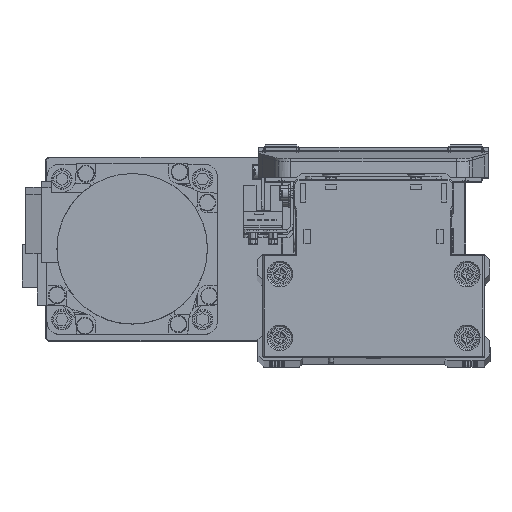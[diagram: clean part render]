
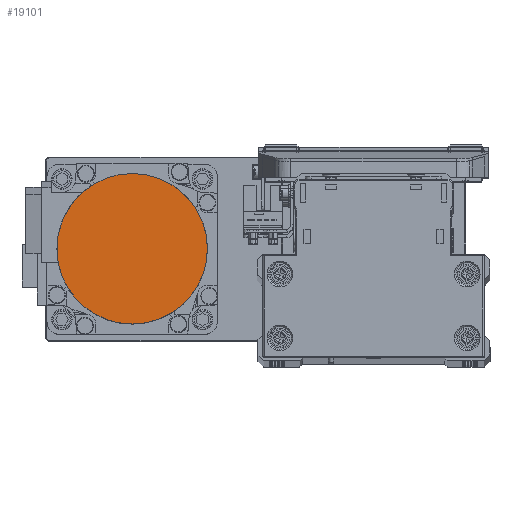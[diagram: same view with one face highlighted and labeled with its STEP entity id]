
A CAD part, top view. The second image highlights one B-rep face of the part: STEP entity #19101.
In plain terms, the highlighted planar face has unit normal (0, 0, 1) as drawn and (0, 0, -1) by its records, which use the part's own axes.
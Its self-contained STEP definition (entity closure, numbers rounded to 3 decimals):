
#1622 = FACE_OUTER_BOUND ( 'NONE', #32516, .T. ) ;
#2966 = EDGE_CURVE ( 'NONE', #26208, #9886, #23363, .T. ) ;
#4425 = EDGE_CURVE ( 'NONE', #9886, #26208, #15385, .T. ) ;
#5144 = AXIS2_PLACEMENT_3D ( 'NONE', #14668, #27534, #40423 ) ;
#5985 = CARTESIAN_POINT ( 'NONE',  ( 0., 0., -109.7 ) ) ;
#9886 = VERTEX_POINT ( 'NONE', #20001 ) ;
#11332 = DIRECTION ( 'NONE',  ( 1., 0., 0. ) ) ;
#14516 = PLANE ( 'NONE',  #17524 ) ;
#14668 = CARTESIAN_POINT ( 'NONE',  ( 0., 0., -109.7 ) ) ;
#15385 = CIRCLE ( 'NONE', #38985, 26.5 ) ;
#17524 = AXIS2_PLACEMENT_3D ( 'NONE', #27388, #40277, #11332 ) ;
#18872 = DIRECTION ( 'NONE',  ( 0., 0., 1. ) ) ;
#19101 = ADVANCED_FACE ( 'NONE', ( #1622 ), #14516, .F. ) ;
#20001 = CARTESIAN_POINT ( 'NONE',  ( 26.5, 0., -109.7 ) ) ;
#23363 = CIRCLE ( 'NONE', #5144, 26.5 ) ;
#26170 = ORIENTED_EDGE ( 'NONE', *, *, #2966, .F. ) ;
#26208 = VERTEX_POINT ( 'NONE', #35395 ) ;
#27388 = CARTESIAN_POINT ( 'NONE',  ( 0., 0., -109.7 ) ) ;
#27534 = DIRECTION ( 'NONE',  ( 0., 0., 1. ) ) ;
#27637 = ORIENTED_EDGE ( 'NONE', *, *, #4425, .F. ) ;
#31754 = DIRECTION ( 'NONE',  ( 1., 0., 0. ) ) ;
#32516 = EDGE_LOOP ( 'NONE', ( #26170, #27637 ) ) ;
#35395 = CARTESIAN_POINT ( 'NONE',  ( -26.5, 0., -109.7 ) ) ;
#38985 = AXIS2_PLACEMENT_3D ( 'NONE', #5985, #18872, #31754 ) ;
#40277 = DIRECTION ( 'NONE',  ( 0., 0., 1. ) ) ;
#40423 = DIRECTION ( 'NONE',  ( -1., 0., 0. ) ) ;
